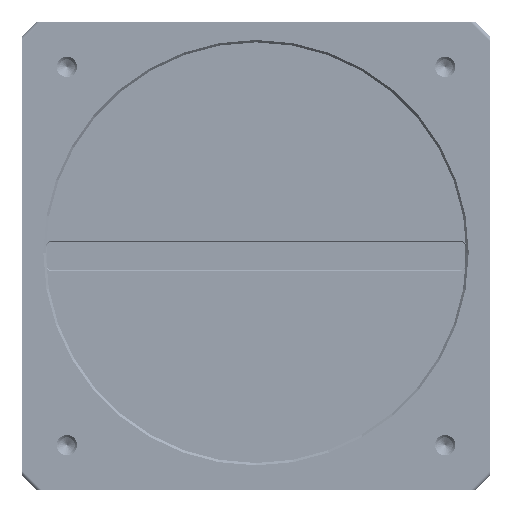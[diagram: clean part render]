
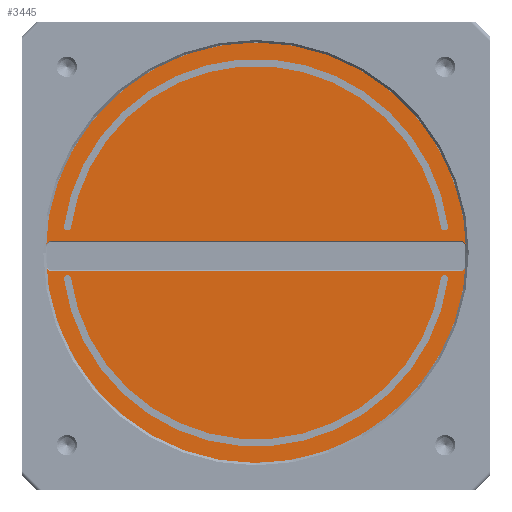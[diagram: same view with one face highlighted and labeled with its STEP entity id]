
A CAD part, front view. The second image highlights one B-rep face of the part: STEP entity #3445.
In plain terms, the highlighted planar face has unit normal (0, -1, 0).
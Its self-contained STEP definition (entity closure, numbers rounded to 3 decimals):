
#863=DIRECTION('',(-1.,0.,0.));
#864=VECTOR('',#863,86.5);
#865=CARTESIAN_POINT('',(43.25,6.6,-3.2));
#866=LINE('',#865,#864);
#871=CARTESIAN_POINT('',(0.,6.6,0.));
#872=DIRECTION('',(0.,1.,0.));
#873=DIRECTION('',(1.,0.,0.));
#874=AXIS2_PLACEMENT_3D('',#871,#872,#873);
#876=CARTESIAN_POINT('',(0.,6.6,0.));
#877=DIRECTION('',(0.,1.,0.));
#878=DIRECTION('',(-1.,0.,0.));
#879=AXIS2_PLACEMENT_3D('',#876,#877,#878);
#881=CARTESIAN_POINT('',(39.872,6.6,-4.8));
#882=DIRECTION('',(0.,-1.,0.));
#883=DIRECTION('',(1.,0.,0.));
#884=AXIS2_PLACEMENT_3D('',#881,#882,#883);
#886=CARTESIAN_POINT('',(0.,6.6,0.7));
#887=DIRECTION('',(0.,1.,0.));
#888=DIRECTION('',(0.99,0.,-0.139));
#889=AXIS2_PLACEMENT_3D('',#886,#887,#888);
#891=CARTESIAN_POINT('',(-39.872,6.6,-4.8));
#892=DIRECTION('',(0.,-1.,0.));
#893=DIRECTION('',(1.,0.,0.));
#894=AXIS2_PLACEMENT_3D('',#891,#892,#893);
#896=CARTESIAN_POINT('',(0.,6.6,0.7));
#897=DIRECTION('',(0.,-1.,0.));
#898=DIRECTION('',(-0.991,0.,-0.134));
#899=AXIS2_PLACEMENT_3D('',#896,#897,#898);
#901=CARTESIAN_POINT('',(-39.872,6.6,6.2));
#902=DIRECTION('',(0.,-1.,0.));
#903=DIRECTION('',(-1.,0.,0.));
#904=AXIS2_PLACEMENT_3D('',#901,#902,#903);
#906=CARTESIAN_POINT('',(0.,6.6,0.7));
#907=DIRECTION('',(0.,1.,0.));
#908=DIRECTION('',(-0.99,0.,0.139));
#909=AXIS2_PLACEMENT_3D('',#906,#907,#908);
#911=CARTESIAN_POINT('',(39.872,6.6,6.2));
#912=DIRECTION('',(0.,-1.,0.));
#913=DIRECTION('',(-1.,0.,0.));
#914=AXIS2_PLACEMENT_3D('',#911,#912,#913);
#916=CARTESIAN_POINT('',(0.,6.6,0.7));
#917=DIRECTION('',(0.,-1.,0.));
#918=DIRECTION('',(0.991,0.,0.134));
#919=AXIS2_PLACEMENT_3D('',#916,#917,#918);
#921=CARTESIAN_POINT('',(43.25,6.6,2.));
#922=DIRECTION('',(0.,-1.,0.));
#923=DIRECTION('',(1.,0.,0.));
#924=AXIS2_PLACEMENT_3D('',#921,#922,#923);
#926=CARTESIAN_POINT('',(-43.25,6.6,2.));
#927=DIRECTION('',(0.,-1.,0.));
#928=DIRECTION('',(0.,0.,1.));
#929=AXIS2_PLACEMENT_3D('',#926,#927,#928);
#931=CARTESIAN_POINT('',(-43.25,6.6,-2.));
#932=DIRECTION('',(0.,-1.,0.));
#933=DIRECTION('',(-1.,0.,0.));
#934=AXIS2_PLACEMENT_3D('',#931,#932,#933);
#936=CARTESIAN_POINT('',(43.25,6.6,-2.));
#937=DIRECTION('',(0.,-1.,0.));
#938=DIRECTION('',(0.,0.,-1.));
#939=AXIS2_PLACEMENT_3D('',#936,#937,#938);
#999=DIRECTION('',(1.,0.,0.));
#1000=VECTOR('',#999,0.007);
#1001=CARTESIAN_POINT('',(40.622,6.6,-4.8));
#1002=LINE('',#1001,#1000);
#1011=DIRECTION('',(1.,0.,0.));
#1012=VECTOR('',#1011,0.007);
#1013=CARTESIAN_POINT('',(-40.629,6.6,-4.8));
#1014=LINE('',#1013,#1012);
#1023=DIRECTION('',(1.,0.,0.));
#1024=VECTOR('',#1023,0.007);
#1025=CARTESIAN_POINT('',(-39.122,6.6,-4.8));
#1026=LINE('',#1025,#1024);
#1039=DIRECTION('',(1.,0.,0.));
#1040=VECTOR('',#1039,0.007);
#1041=CARTESIAN_POINT('',(39.115,6.6,-4.8));
#1042=LINE('',#1041,#1040);
#1083=DIRECTION('',(-1.,0.,0.));
#1084=VECTOR('',#1083,0.007);
#1085=CARTESIAN_POINT('',(-40.622,6.6,6.2));
#1086=LINE('',#1085,#1084);
#1095=DIRECTION('',(-1.,0.,0.));
#1096=VECTOR('',#1095,0.007);
#1097=CARTESIAN_POINT('',(40.629,6.6,6.2));
#1098=LINE('',#1097,#1096);
#1107=DIRECTION('',(-1.,0.,0.));
#1108=VECTOR('',#1107,0.007);
#1109=CARTESIAN_POINT('',(39.122,6.6,6.2));
#1110=LINE('',#1109,#1108);
#1123=DIRECTION('',(-1.,0.,0.));
#1124=VECTOR('',#1123,0.007);
#1125=CARTESIAN_POINT('',(-39.115,6.6,6.2));
#1126=LINE('',#1125,#1124);
#1163=DIRECTION('',(0.,0.,-1.));
#1164=VECTOR('',#1163,4.);
#1165=CARTESIAN_POINT('',(44.45,6.6,2.));
#1166=LINE('',#1165,#1164);
#1175=DIRECTION('',(1.,0.,0.));
#1176=VECTOR('',#1175,86.5);
#1177=CARTESIAN_POINT('',(-43.25,6.6,3.2));
#1178=LINE('',#1177,#1176);
#1191=DIRECTION('',(0.,0.,1.));
#1192=VECTOR('',#1191,4.);
#1193=CARTESIAN_POINT('',(-44.45,6.6,-2.));
#1194=LINE('',#1193,#1192);
#2220=CARTESIAN_POINT('',(-45.25,6.6,0.));
#2221=VERTEX_POINT('',#2220);
#2222=CARTESIAN_POINT('',(45.25,6.6,0.));
#2223=VERTEX_POINT('',#2222);
#2224=CARTESIAN_POINT('',(40.622,6.6,-4.8));
#2225=CARTESIAN_POINT('',(39.122,6.6,-4.8));
#2226=VERTEX_POINT('',#2224);
#2227=VERTEX_POINT('',#2225);
#2228=CARTESIAN_POINT('',(39.115,6.6,-4.8));
#2229=CARTESIAN_POINT('',(-39.115,6.6,-4.8));
#2230=VERTEX_POINT('',#2228);
#2231=VERTEX_POINT('',#2229);
#2232=CARTESIAN_POINT('',(-39.122,6.6,-4.8));
#2233=CARTESIAN_POINT('',(-40.622,6.6,-4.8));
#2234=VERTEX_POINT('',#2232);
#2235=VERTEX_POINT('',#2233);
#2236=CARTESIAN_POINT('',(-40.629,6.6,-4.8));
#2237=CARTESIAN_POINT('',(40.629,6.6,-4.8));
#2238=VERTEX_POINT('',#2236);
#2239=VERTEX_POINT('',#2237);
#2240=CARTESIAN_POINT('',(-40.622,6.6,6.2));
#2241=CARTESIAN_POINT('',(-39.122,6.6,6.2));
#2242=VERTEX_POINT('',#2240);
#2243=VERTEX_POINT('',#2241);
#2244=CARTESIAN_POINT('',(-39.115,6.6,6.2));
#2245=CARTESIAN_POINT('',(39.115,6.6,6.2));
#2246=VERTEX_POINT('',#2244);
#2247=VERTEX_POINT('',#2245);
#2248=CARTESIAN_POINT('',(39.122,6.6,6.2));
#2249=CARTESIAN_POINT('',(40.622,6.6,6.2));
#2250=VERTEX_POINT('',#2248);
#2251=VERTEX_POINT('',#2249);
#2252=CARTESIAN_POINT('',(40.629,6.6,6.2));
#2253=CARTESIAN_POINT('',(-40.629,6.6,6.2));
#2254=VERTEX_POINT('',#2252);
#2255=VERTEX_POINT('',#2253);
#2256=CARTESIAN_POINT('',(44.45,6.6,2.));
#2257=CARTESIAN_POINT('',(43.25,6.6,3.2));
#2258=VERTEX_POINT('',#2256);
#2259=VERTEX_POINT('',#2257);
#2260=CARTESIAN_POINT('',(-43.25,6.6,3.2));
#2261=VERTEX_POINT('',#2260);
#2262=CARTESIAN_POINT('',(-44.45,6.6,2.));
#2263=VERTEX_POINT('',#2262);
#2264=CARTESIAN_POINT('',(-44.45,6.6,-2.));
#2265=VERTEX_POINT('',#2264);
#2266=CARTESIAN_POINT('',(-43.25,6.6,-3.2));
#2267=VERTEX_POINT('',#2266);
#2268=CARTESIAN_POINT('',(43.25,6.6,-3.2));
#2269=VERTEX_POINT('',#2268);
#2270=CARTESIAN_POINT('',(44.45,6.6,-2.));
#2271=VERTEX_POINT('',#2270);
#3381=CARTESIAN_POINT('',(0.,6.6,0.));
#3382=DIRECTION('',(0.,1.,0.));
#3383=DIRECTION('',(0.,0.,1.));
#3384=AXIS2_PLACEMENT_3D('',#3381,#3382,#3383);
#3385=PLANE('',#3384);
#3387=ORIENTED_EDGE('',*,*,#3386,.T.);
#3389=ORIENTED_EDGE('',*,*,#3388,.T.);
#3390=EDGE_LOOP('',(#3387,#3389));
#3391=FACE_OUTER_BOUND('',#3390,.F.);
#3393=ORIENTED_EDGE('',*,*,#3392,.T.);
#3395=ORIENTED_EDGE('',*,*,#3394,.F.);
#3397=ORIENTED_EDGE('',*,*,#3396,.T.);
#3399=ORIENTED_EDGE('',*,*,#3398,.F.);
#3401=ORIENTED_EDGE('',*,*,#3400,.T.);
#3403=ORIENTED_EDGE('',*,*,#3402,.F.);
#3405=ORIENTED_EDGE('',*,*,#3404,.T.);
#3407=ORIENTED_EDGE('',*,*,#3406,.F.);
#3408=EDGE_LOOP('',(#3393,#3395,#3397,#3399,#3401,#3403,#3405,#3407));
#3409=FACE_BOUND('',#3408,.F.);
#3411=ORIENTED_EDGE('',*,*,#3410,.T.);
#3413=ORIENTED_EDGE('',*,*,#3412,.F.);
#3415=ORIENTED_EDGE('',*,*,#3414,.T.);
#3417=ORIENTED_EDGE('',*,*,#3416,.F.);
#3419=ORIENTED_EDGE('',*,*,#3418,.T.);
#3421=ORIENTED_EDGE('',*,*,#3420,.F.);
#3423=ORIENTED_EDGE('',*,*,#3422,.T.);
#3425=ORIENTED_EDGE('',*,*,#3424,.F.);
#3426=EDGE_LOOP('',(#3411,#3413,#3415,#3417,#3419,#3421,#3423,#3425));
#3427=FACE_BOUND('',#3426,.F.);
#3429=ORIENTED_EDGE('',*,*,#3428,.T.);
#3431=ORIENTED_EDGE('',*,*,#3430,.F.);
#3433=ORIENTED_EDGE('',*,*,#3432,.T.);
#3435=ORIENTED_EDGE('',*,*,#3434,.F.);
#3437=ORIENTED_EDGE('',*,*,#3436,.T.);
#3438=ORIENTED_EDGE('',*,*,#3371,.F.);
#3440=ORIENTED_EDGE('',*,*,#3439,.T.);
#3442=ORIENTED_EDGE('',*,*,#3441,.F.);
#3443=EDGE_LOOP('',(#3429,#3431,#3433,#3435,#3437,#3438,#3440,#3442));
#3444=FACE_BOUND('',#3443,.F.);
#3445=ADVANCED_FACE('',(#3391,#3409,#3427,#3444),#3385,.F.);
#875=CIRCLE('',#874,45.25);
#880=CIRCLE('',#879,45.25);
#885=CIRCLE('',#884,0.75);
#890=CIRCLE('',#889,39.5);
#895=CIRCLE('',#894,0.75);
#900=CIRCLE('',#899,41.);
#905=CIRCLE('',#904,0.75);
#910=CIRCLE('',#909,39.5);
#915=CIRCLE('',#914,0.75);
#920=CIRCLE('',#919,41.);
#925=CIRCLE('',#924,1.2);
#930=CIRCLE('',#929,1.2);
#935=CIRCLE('',#934,1.2);
#940=CIRCLE('',#939,1.2);
#3371=EDGE_CURVE('',#2269,#2267,#866,.T.);
#3386=EDGE_CURVE('',#2223,#2221,#875,.T.);
#3388=EDGE_CURVE('',#2221,#2223,#880,.T.);
#3392=EDGE_CURVE('',#2226,#2227,#885,.T.);
#3394=EDGE_CURVE('',#2230,#2227,#1042,.T.);
#3396=EDGE_CURVE('',#2230,#2231,#890,.T.);
#3398=EDGE_CURVE('',#2234,#2231,#1026,.T.);
#3400=EDGE_CURVE('',#2234,#2235,#895,.T.);
#3402=EDGE_CURVE('',#2238,#2235,#1014,.T.);
#3404=EDGE_CURVE('',#2238,#2239,#900,.T.);
#3406=EDGE_CURVE('',#2226,#2239,#1002,.T.);
#3410=EDGE_CURVE('',#2242,#2243,#905,.T.);
#3412=EDGE_CURVE('',#2246,#2243,#1126,.T.);
#3414=EDGE_CURVE('',#2246,#2247,#910,.T.);
#3416=EDGE_CURVE('',#2250,#2247,#1110,.T.);
#3418=EDGE_CURVE('',#2250,#2251,#915,.T.);
#3420=EDGE_CURVE('',#2254,#2251,#1098,.T.);
#3422=EDGE_CURVE('',#2254,#2255,#920,.T.);
#3424=EDGE_CURVE('',#2242,#2255,#1086,.T.);
#3428=EDGE_CURVE('',#2258,#2259,#925,.T.);
#3430=EDGE_CURVE('',#2261,#2259,#1178,.T.);
#3432=EDGE_CURVE('',#2261,#2263,#930,.T.);
#3434=EDGE_CURVE('',#2265,#2263,#1194,.T.);
#3436=EDGE_CURVE('',#2265,#2267,#935,.T.);
#3439=EDGE_CURVE('',#2269,#2271,#940,.T.);
#3441=EDGE_CURVE('',#2258,#2271,#1166,.T.);
